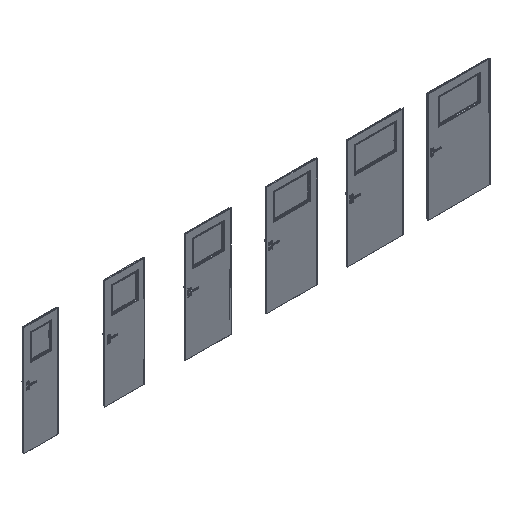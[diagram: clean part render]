
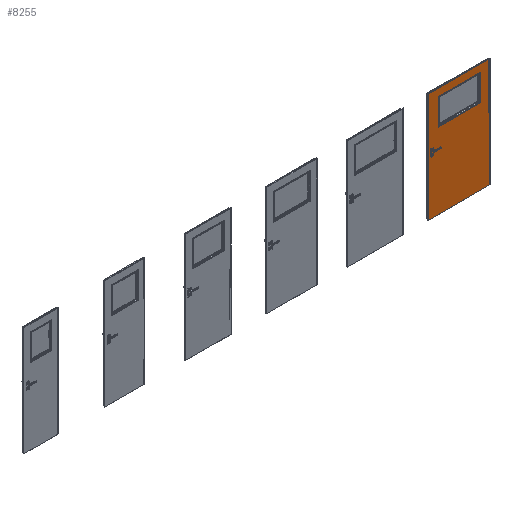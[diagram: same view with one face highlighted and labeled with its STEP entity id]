
A CAD part, isometric view. The second image highlights one B-rep face of the part: STEP entity #8255.
In plain terms, the highlighted planar face has unit normal (0, -1, 0).
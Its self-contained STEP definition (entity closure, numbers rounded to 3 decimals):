
#6799=CIRCLE('',#74536,7.);
#6800=CIRCLE('',#74537,7.);
#6801=CIRCLE('',#74538,7.);
#6802=CIRCLE('',#74539,7.);
#7141=FACE_BOUND('',#18812,.T.);
#7142=FACE_BOUND('',#18813,.T.);
#8255=ADVANCED_FACE('',(#7141,#7142),#11683,.F.);
#11683=PLANE('',#74540);
#18812=EDGE_LOOP('',(#26707,#26708,#26709,#26710,#26711,#26712,#26713,#26714));
#18813=EDGE_LOOP('',(#26715,#26716,#26717,#26718));
#26707=ORIENTED_EDGE('',*,*,#51235,.T.);
#26708=ORIENTED_EDGE('',*,*,#51236,.T.);
#26709=ORIENTED_EDGE('',*,*,#51237,.T.);
#26710=ORIENTED_EDGE('',*,*,#51238,.T.);
#26711=ORIENTED_EDGE('',*,*,#51239,.T.);
#26712=ORIENTED_EDGE('',*,*,#51240,.T.);
#26713=ORIENTED_EDGE('',*,*,#51241,.T.);
#26714=ORIENTED_EDGE('',*,*,#51242,.T.);
#26715=ORIENTED_EDGE('',*,*,#51243,.T.);
#26716=ORIENTED_EDGE('',*,*,#51244,.T.);
#26717=ORIENTED_EDGE('',*,*,#51245,.F.);
#26718=ORIENTED_EDGE('',*,*,#51233,.F.);
#43601=VERTEX_POINT('',#104766);
#43602=VERTEX_POINT('',#104768);
#43603=VERTEX_POINT('',#104772);
#43604=VERTEX_POINT('',#104773);
#43605=VERTEX_POINT('',#104775);
#43606=VERTEX_POINT('',#104777);
#43607=VERTEX_POINT('',#104779);
#43608=VERTEX_POINT('',#104781);
#43609=VERTEX_POINT('',#104783);
#43610=VERTEX_POINT('',#104785);
#43611=VERTEX_POINT('',#104788);
#43612=VERTEX_POINT('',#104790);
#51233=EDGE_CURVE('',#43601,#43602,#60327,.T.);
#51235=EDGE_CURVE('',#43603,#43604,#6799,.T.);
#51236=EDGE_CURVE('',#43604,#43605,#60329,.T.);
#51237=EDGE_CURVE('',#43605,#43606,#6800,.T.);
#51238=EDGE_CURVE('',#43606,#43607,#60330,.T.);
#51239=EDGE_CURVE('',#43607,#43608,#6801,.T.);
#51240=EDGE_CURVE('',#43608,#43609,#60331,.T.);
#51241=EDGE_CURVE('',#43609,#43610,#6802,.T.);
#51242=EDGE_CURVE('',#43610,#43603,#60332,.T.);
#51243=EDGE_CURVE('',#43601,#43611,#60333,.T.);
#51244=EDGE_CURVE('',#43611,#43612,#60334,.T.);
#51245=EDGE_CURVE('',#43602,#43612,#60335,.T.);
#60327=LINE('',#104767,#67265);
#60329=LINE('',#104774,#67267);
#60330=LINE('',#104778,#67268);
#60331=LINE('',#104782,#67269);
#60332=LINE('',#104786,#67270);
#60333=LINE('',#104787,#67271);
#60334=LINE('',#104789,#67272);
#60335=LINE('',#104791,#67273);
#67265=VECTOR('',#81402,1.);
#67267=VECTOR('',#81408,1.);
#67268=VECTOR('',#81411,1.);
#67269=VECTOR('',#81414,1.);
#67270=VECTOR('',#81417,1.);
#67271=VECTOR('',#81418,1.);
#67272=VECTOR('',#81419,1.);
#67273=VECTOR('',#81420,1.);
#74536=AXIS2_PLACEMENT_3D('',#104771,#81406,#81407);
#74537=AXIS2_PLACEMENT_3D('',#104776,#81409,#81410);
#74538=AXIS2_PLACEMENT_3D('',#104780,#81412,#81413);
#74539=AXIS2_PLACEMENT_3D('',#104784,#81415,#81416);
#74540=AXIS2_PLACEMENT_3D('',#104792,#81421,#81422);
#81402=DIRECTION('',(1.,0.,0.));
#81406=DIRECTION('',(0.,1.,0.));
#81407=DIRECTION('',(1.,0.,0.));
#81408=DIRECTION('',(1.,0.,0.));
#81409=DIRECTION('',(0.,1.,0.));
#81410=DIRECTION('',(-1.,0.,0.));
#81411=DIRECTION('',(0.,0.,-1.));
#81412=DIRECTION('',(0.,1.,0.));
#81413=DIRECTION('',(-1.,0.,0.));
#81414=DIRECTION('',(-1.,0.,0.));
#81415=DIRECTION('',(0.,1.,0.));
#81416=DIRECTION('',(1.,0.,0.));
#81417=DIRECTION('',(0.,0.,1.));
#81418=DIRECTION('',(0.,0.,-1.));
#81419=DIRECTION('',(1.,0.,0.));
#81420=DIRECTION('',(0.,0.,-1.));
#81421=DIRECTION('',(0.,1.,0.));
#81422=DIRECTION('',(-1.,0.,0.));
#104766=CARTESIAN_POINT('',(7178.,-39.3,2030.));
#104767=CARTESIAN_POINT('',(7178.,-39.3,2030.));
#104768=CARTESIAN_POINT('',(8322.,-39.3,2030.));
#104771=CARTESIAN_POINT('',(7367.95,-39.3,1890.05));
#104772=CARTESIAN_POINT('',(7363.,-39.3,1885.101));
#104773=CARTESIAN_POINT('',(7372.899,-39.3,1895.));
#104774=CARTESIAN_POINT('',(7322.899,-39.3,1895.));
#104775=CARTESIAN_POINT('',(8127.101,-39.3,1895.));
#104776=CARTESIAN_POINT('',(8132.05,-39.3,1890.05));
#104777=CARTESIAN_POINT('',(8137.,-39.3,1885.101));
#104778=CARTESIAN_POINT('',(8137.,-39.3,1885.101));
#104779=CARTESIAN_POINT('',(8137.,-39.3,1426.899));
#104780=CARTESIAN_POINT('',(8132.05,-39.3,1421.95));
#104781=CARTESIAN_POINT('',(8127.101,-39.3,1417.));
#104782=CARTESIAN_POINT('',(7677.101,-39.3,1417.));
#104783=CARTESIAN_POINT('',(7372.899,-39.3,1417.));
#104784=CARTESIAN_POINT('',(7367.95,-39.3,1421.95));
#104785=CARTESIAN_POINT('',(7363.,-39.3,1426.899));
#104786=CARTESIAN_POINT('',(7363.,-39.3,1426.899));
#104787=CARTESIAN_POINT('',(7178.,-39.3,2030.));
#104788=CARTESIAN_POINT('',(7178.,-39.3,2.));
#104789=CARTESIAN_POINT('',(7178.,-39.3,2.));
#104790=CARTESIAN_POINT('',(8322.,-39.3,2.));
#104791=CARTESIAN_POINT('',(8322.,-39.3,2030.));
#104792=CARTESIAN_POINT('',(7178.,-39.3,2030.));
